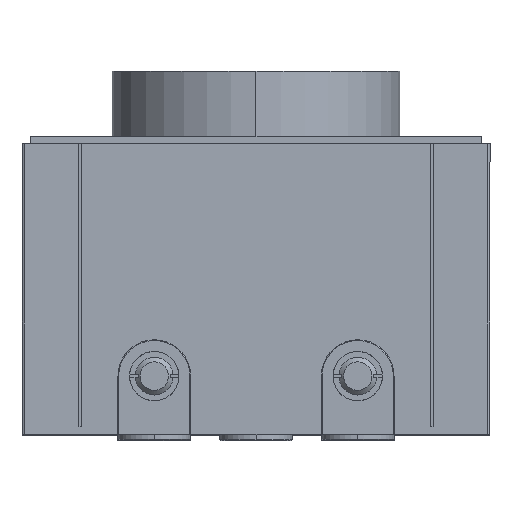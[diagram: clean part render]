
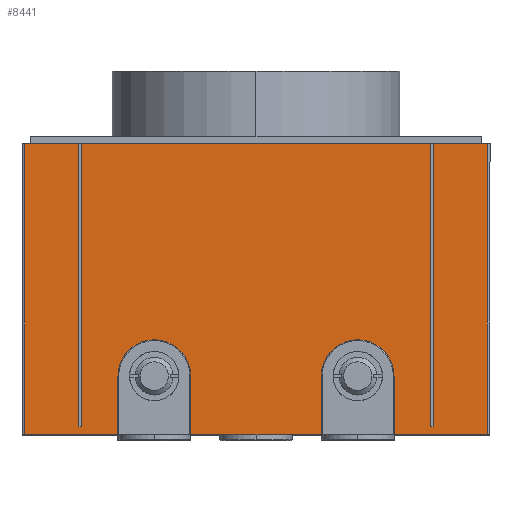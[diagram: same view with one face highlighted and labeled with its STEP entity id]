
A CAD part, top view. The second image highlights one B-rep face of the part: STEP entity #8441.
In plain terms, the highlighted planar face has unit normal (0, 0, 1) as drawn and (1, 0, 0) by its records, which use the part's own axes.
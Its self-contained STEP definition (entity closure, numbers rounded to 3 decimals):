
#435=CIRCLE('',#9013,12.5);
#454=CIRCLE('',#9052,12.5);
#927=FACE_OUTER_BOUND('',#1389,.T.);
#1389=EDGE_LOOP('',(#7195,#7196,#7197,#7198,#7199,#7200,#7201,#7202,#7203,
#7204,#7205,#7206,#7207,#7208,#7209,#7210,#7211,#7212,#7213,#7214));
#2018=LINE('',#14005,#2890);
#2040=LINE('',#14107,#2912);
#2049=LINE('',#14124,#2921);
#2071=LINE('',#14225,#2943);
#2080=LINE('',#14242,#2952);
#2206=LINE('',#14607,#3078);
#2208=LINE('',#14615,#3080);
#2216=LINE('',#14630,#3088);
#2217=LINE('',#14633,#3089);
#2218=LINE('',#14635,#3090);
#2219=LINE('',#14637,#3091);
#2220=LINE('',#14639,#3092);
#2221=LINE('',#14640,#3093);
#2222=LINE('',#14641,#3094);
#2223=LINE('',#14642,#3095);
#2224=LINE('',#14643,#3096);
#2225=LINE('',#14644,#3097);
#2226=LINE('',#14645,#3098);
#2890=VECTOR('',#10782,304.8);
#2912=VECTOR('',#10876,304.8);
#2921=VECTOR('',#10893,304.8);
#2943=VECTOR('',#10985,304.8);
#2952=VECTOR('',#11002,304.8);
#3078=VECTOR('',#11326,304.8);
#3080=VECTOR('',#11334,304.8);
#3088=VECTOR('',#11346,304.8);
#3089=VECTOR('',#11349,304.8);
#3090=VECTOR('',#11350,304.8);
#3091=VECTOR('',#11351,304.8);
#3092=VECTOR('',#11352,304.8);
#3093=VECTOR('',#11353,304.8);
#3094=VECTOR('',#11354,304.8);
#3095=VECTOR('',#11355,304.8);
#3096=VECTOR('',#11356,304.8);
#3097=VECTOR('',#11357,304.8);
#3098=VECTOR('',#11358,304.8);
#3721=VERTEX_POINT('',#14002);
#3722=VERTEX_POINT('',#14004);
#3751=VERTEX_POINT('',#14098);
#3752=VERTEX_POINT('',#14100);
#3754=VERTEX_POINT('',#14106);
#3758=VERTEX_POINT('',#14122);
#3787=VERTEX_POINT('',#14216);
#3788=VERTEX_POINT('',#14218);
#3790=VERTEX_POINT('',#14224);
#3794=VERTEX_POINT('',#14240);
#3909=VERTEX_POINT('',#14605);
#3910=VERTEX_POINT('',#14606);
#3911=VERTEX_POINT('',#14611);
#3913=VERTEX_POINT('',#14614);
#3917=VERTEX_POINT('',#14626);
#3918=VERTEX_POINT('',#14628);
#3919=VERTEX_POINT('',#14632);
#3920=VERTEX_POINT('',#14634);
#3921=VERTEX_POINT('',#14636);
#3922=VERTEX_POINT('',#14638);
#4803=EDGE_CURVE('',#3722,#3721,#2018,.T.);
#4846=EDGE_CURVE('',#3752,#3751,#435,.T.);
#4849=EDGE_CURVE('',#3754,#3752,#2040,.T.);
#4858=EDGE_CURVE('',#3751,#3758,#2049,.T.);
#4900=EDGE_CURVE('',#3788,#3787,#454,.T.);
#4903=EDGE_CURVE('',#3790,#3788,#2071,.T.);
#4912=EDGE_CURVE('',#3787,#3794,#2080,.T.);
#5084=EDGE_CURVE('',#3909,#3910,#2206,.T.);
#5088=EDGE_CURVE('',#3913,#3911,#2208,.T.);
#5096=EDGE_CURVE('',#3917,#3918,#2216,.T.);
#5097=EDGE_CURVE('',#3919,#3918,#2217,.T.);
#5098=EDGE_CURVE('',#3920,#3919,#2218,.T.);
#5099=EDGE_CURVE('',#3921,#3920,#2219,.T.);
#5100=EDGE_CURVE('',#3922,#3921,#2220,.T.);
#5101=EDGE_CURVE('',#3722,#3922,#2221,.T.);
#5102=EDGE_CURVE('',#3754,#3721,#2222,.T.);
#5103=EDGE_CURVE('',#3790,#3758,#2223,.T.);
#5104=EDGE_CURVE('',#3909,#3794,#2224,.T.);
#5105=EDGE_CURVE('',#3913,#3910,#2225,.T.);
#5106=EDGE_CURVE('',#3911,#3917,#2226,.T.);
#7195=ORIENTED_EDGE('',*,*,#5096,.T.);
#7196=ORIENTED_EDGE('',*,*,#5097,.F.);
#7197=ORIENTED_EDGE('',*,*,#5098,.F.);
#7198=ORIENTED_EDGE('',*,*,#5099,.F.);
#7199=ORIENTED_EDGE('',*,*,#5100,.F.);
#7200=ORIENTED_EDGE('',*,*,#5101,.F.);
#7201=ORIENTED_EDGE('',*,*,#4803,.T.);
#7202=ORIENTED_EDGE('',*,*,#5102,.F.);
#7203=ORIENTED_EDGE('',*,*,#4849,.T.);
#7204=ORIENTED_EDGE('',*,*,#4846,.T.);
#7205=ORIENTED_EDGE('',*,*,#4858,.T.);
#7206=ORIENTED_EDGE('',*,*,#5103,.F.);
#7207=ORIENTED_EDGE('',*,*,#4903,.T.);
#7208=ORIENTED_EDGE('',*,*,#4900,.T.);
#7209=ORIENTED_EDGE('',*,*,#4912,.T.);
#7210=ORIENTED_EDGE('',*,*,#5104,.F.);
#7211=ORIENTED_EDGE('',*,*,#5084,.T.);
#7212=ORIENTED_EDGE('',*,*,#5105,.F.);
#7213=ORIENTED_EDGE('',*,*,#5088,.T.);
#7214=ORIENTED_EDGE('',*,*,#5106,.T.);
#8006=PLANE('',#9162);
#8441=ADVANCED_FACE('',(#927),#8006,.T.);
#9013=AXIS2_PLACEMENT_3D('',#14101,#10870,#10871);
#9052=AXIS2_PLACEMENT_3D('',#14219,#10979,#10980);
#9162=AXIS2_PLACEMENT_3D('',#14631,#11347,#11348);
#10782=DIRECTION('',(0.,0.,-1.));
#10870=DIRECTION('center_axis',(-1.,0.,0.));
#10871=DIRECTION('ref_axis',(0.,-1.,0.));
#10876=DIRECTION('',(0.,0.,1.));
#10893=DIRECTION('',(0.,0.,-1.));
#10979=DIRECTION('center_axis',(-1.,0.,0.));
#10980=DIRECTION('ref_axis',(0.,-1.,0.));
#10985=DIRECTION('',(0.,0.,1.));
#11002=DIRECTION('',(0.,0.,-1.));
#11326=DIRECTION('',(0.,0.,1.));
#11334=DIRECTION('',(0.,0.,-1.));
#11346=DIRECTION('',(0.,0.,1.));
#11347=DIRECTION('center_axis',(1.,0.,0.));
#11348=DIRECTION('ref_axis',(0.,1.,0.));
#11349=DIRECTION('',(0.,1.,0.));
#11350=DIRECTION('',(0.,0.,1.));
#11351=DIRECTION('',(0.,1.,0.));
#11352=DIRECTION('',(0.,0.,-1.));
#11353=DIRECTION('',(0.,1.,0.));
#11354=DIRECTION('',(0.,-1.,0.));
#11355=DIRECTION('',(0.,-1.,0.));
#11356=DIRECTION('',(0.,-1.,0.));
#11357=DIRECTION('',(0.,1.,0.));
#11358=DIRECTION('',(0.,-1.,0.));
#14002=CARTESIAN_POINT('',(85.,-79.5,0.));
#14004=CARTESIAN_POINT('',(85.,-79.5,100.));
#14005=CARTESIAN_POINT('',(85.,-79.5,100.));
#14098=CARTESIAN_POINT('',(85.,-22.5,20.));
#14100=CARTESIAN_POINT('',(85.,-47.5,20.));
#14101=CARTESIAN_POINT('Origin',(85.,-35.,20.));
#14106=CARTESIAN_POINT('',(85.,-47.5,0.));
#14107=CARTESIAN_POINT('',(85.,-47.5,0.));
#14122=CARTESIAN_POINT('',(85.,-22.5,0.));
#14124=CARTESIAN_POINT('',(85.,-22.5,20.));
#14216=CARTESIAN_POINT('',(85.,47.5,20.));
#14218=CARTESIAN_POINT('',(85.,22.5,20.));
#14219=CARTESIAN_POINT('Origin',(85.,35.,20.));
#14224=CARTESIAN_POINT('',(85.,22.5,0.));
#14225=CARTESIAN_POINT('',(85.,22.5,0.));
#14240=CARTESIAN_POINT('',(85.,47.5,0.));
#14242=CARTESIAN_POINT('',(85.,47.5,20.));
#14605=CARTESIAN_POINT('',(85.,79.5,0.));
#14606=CARTESIAN_POINT('',(85.,79.5,100.));
#14607=CARTESIAN_POINT('',(85.,79.5,0.));
#14611=CARTESIAN_POINT('',(85.,61.,2.5));
#14614=CARTESIAN_POINT('',(85.,61.,100.));
#14615=CARTESIAN_POINT('',(85.,61.,100.));
#14626=CARTESIAN_POINT('',(85.,60.,2.5));
#14628=CARTESIAN_POINT('',(85.,60.,100.));
#14630=CARTESIAN_POINT('',(85.,60.,2.5));
#14631=CARTESIAN_POINT('Origin',(85.,-77.5,0.));
#14632=CARTESIAN_POINT('',(85.,-60.,100.));
#14633=CARTESIAN_POINT('',(85.,-60.,100.));
#14634=CARTESIAN_POINT('',(85.,-60.,2.5));
#14635=CARTESIAN_POINT('',(85.,-60.,2.5));
#14636=CARTESIAN_POINT('',(85.,-61.,2.5));
#14637=CARTESIAN_POINT('',(85.,-61.,2.5));
#14638=CARTESIAN_POINT('',(85.,-61.,100.));
#14639=CARTESIAN_POINT('',(85.,-61.,100.));
#14640=CARTESIAN_POINT('',(85.,-79.5,100.));
#14641=CARTESIAN_POINT('',(85.,-47.5,0.));
#14642=CARTESIAN_POINT('',(85.,22.5,0.));
#14643=CARTESIAN_POINT('',(85.,79.5,0.));
#14644=CARTESIAN_POINT('',(85.,61.,100.));
#14645=CARTESIAN_POINT('',(85.,61.,2.5));
